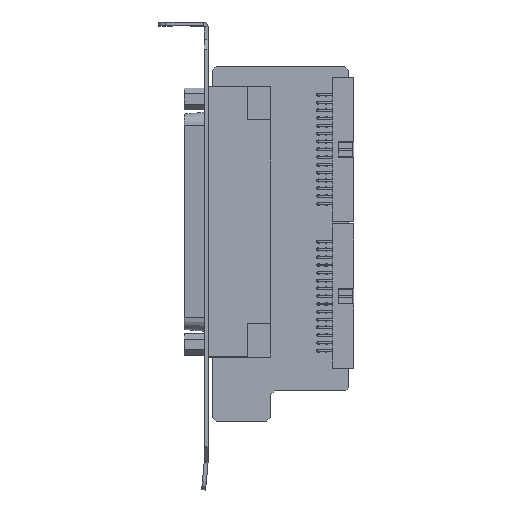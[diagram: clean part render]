
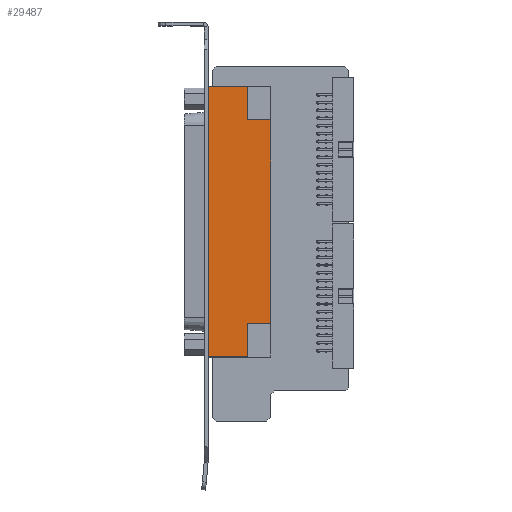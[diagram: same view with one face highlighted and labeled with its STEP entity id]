
A CAD part, top view. The second image highlights one B-rep face of the part: STEP entity #29487.
In plain terms, the highlighted planar face has unit normal (0, 0, 1).
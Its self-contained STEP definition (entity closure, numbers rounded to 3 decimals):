
#824 = VECTOR ( 'NONE', #35210, 1000. ) ;
#2798 = VERTEX_POINT ( 'NONE', #54327 ) ;
#3141 = CARTESIAN_POINT ( 'NONE',  ( 15.04, 24.978, 12.5 ) ) ;
#3507 = EDGE_CURVE ( 'NONE', #46669, #47585, #61006, .T. ) ;
#3897 = LINE ( 'NONE', #63995, #15058 ) ;
#4062 = VECTOR ( 'NONE', #22246, 1000. ) ;
#4441 = DIRECTION ( 'NONE',  ( -1., 0., 0. ) ) ;
#4611 = CARTESIAN_POINT ( 'NONE',  ( 9.04, 24.978, 12.5 ) ) ;
#6674 = VERTEX_POINT ( 'NONE', #40643 ) ;
#8287 = DIRECTION ( 'NONE',  ( -1., 0., 0. ) ) ;
#8369 = CARTESIAN_POINT ( 'NONE',  ( -1.06, 16.428, 12.5 ) ) ;
#9205 = ORIENTED_EDGE ( 'NONE', *, *, #47120, .F. ) ;
#10827 = CARTESIAN_POINT ( 'NONE',  ( -1.06, 85.828, 12.5 ) ) ;
#11321 = VECTOR ( 'NONE', #29222, 1000. ) ;
#12867 = LINE ( 'NONE', #55191, #11321 ) ;
#13517 = CARTESIAN_POINT ( 'NONE',  ( -1.06, 16.428, 12.5 ) ) ;
#15058 = VECTOR ( 'NONE', #8287, 1000. ) ;
#16308 = EDGE_CURVE ( 'NONE', #2798, #45015, #16566, .T. ) ;
#16566 = LINE ( 'NONE', #43228, #4062 ) ;
#17507 = VERTEX_POINT ( 'NONE', #66167 ) ;
#19678 = EDGE_CURVE ( 'NONE', #2798, #17507, #43198, .T. ) ;
#20601 = VECTOR ( 'NONE', #24032, 1000. ) ;
#22246 = DIRECTION ( 'NONE',  ( 0., -1., 0. ) ) ;
#24032 = DIRECTION ( 'NONE',  ( 0., 1., 0. ) ) ;
#24533 = CARTESIAN_POINT ( 'NONE',  ( -1.06, 16.428, 12.5 ) ) ;
#24729 = DIRECTION ( 'NONE',  ( 1., 0., 0. ) ) ;
#26895 = VERTEX_POINT ( 'NONE', #4611 ) ;
#29222 = DIRECTION ( 'NONE',  ( 0., -1., 0. ) ) ;
#29487 = ADVANCED_FACE ( 'NONE', ( #33835 ), #45520, .T. ) ;
#29512 = LINE ( 'NONE', #13517, #824 ) ;
#29722 = CARTESIAN_POINT ( 'NONE',  ( 15.04, 16.428, 12.5 ) ) ;
#30421 = VECTOR ( 'NONE', #4441, 1000. ) ;
#31245 = ORIENTED_EDGE ( 'NONE', *, *, #19678, .T. ) ;
#31763 = CARTESIAN_POINT ( 'NONE',  ( 9.04, 77.278, 12.5 ) ) ;
#33429 = ORIENTED_EDGE ( 'NONE', *, *, #68331, .T. ) ;
#33835 = FACE_OUTER_BOUND ( 'NONE', #61520, .T. ) ;
#35210 = DIRECTION ( 'NONE',  ( 0., -1., 0. ) ) ;
#36378 = ORIENTED_EDGE ( 'NONE', *, *, #69508, .T. ) ;
#39853 = CARTESIAN_POINT ( 'NONE',  ( -1.06, 16.428, 12.5 ) ) ;
#40643 = CARTESIAN_POINT ( 'NONE',  ( 9.04, 16.428, 12.5 ) ) ;
#40766 = DIRECTION ( 'NONE',  ( 1., 0., 0. ) ) ;
#42059 = ORIENTED_EDGE ( 'NONE', *, *, #50488, .F. ) ;
#43198 = LINE ( 'NONE', #10827, #30421 ) ;
#43228 = CARTESIAN_POINT ( 'NONE',  ( 9.04, 85.828, 12.5 ) ) ;
#45015 = VERTEX_POINT ( 'NONE', #31763 ) ;
#45520 = PLANE ( 'NONE',  #59072 ) ;
#46669 = VERTEX_POINT ( 'NONE', #3141 ) ;
#47120 = EDGE_CURVE ( 'NONE', #45015, #47585, #51764, .T. ) ;
#47585 = VERTEX_POINT ( 'NONE', #66906 ) ;
#47678 = EDGE_CURVE ( 'NONE', #26895, #6674, #12867, .T. ) ;
#50488 = EDGE_CURVE ( 'NONE', #46669, #26895, #3897, .T. ) ;
#51001 = VECTOR ( 'NONE', #40766, 1000. ) ;
#51764 = LINE ( 'NONE', #62094, #51001 ) ;
#54327 = CARTESIAN_POINT ( 'NONE',  ( 9.04, 85.828, 12.5 ) ) ;
#55004 = ORIENTED_EDGE ( 'NONE', *, *, #3507, .T. ) ;
#55191 = CARTESIAN_POINT ( 'NONE',  ( 9.04, 16.428, 12.5 ) ) ;
#55507 = DIRECTION ( 'NONE',  ( 0., 1., 0. ) ) ;
#57092 = LINE ( 'NONE', #8369, #66777 ) ;
#59070 = ORIENTED_EDGE ( 'NONE', *, *, #47678, .F. ) ;
#59072 = AXIS2_PLACEMENT_3D ( 'NONE', #39853, #65823, #55507 ) ;
#61006 = LINE ( 'NONE', #29722, #20601 ) ;
#61520 = EDGE_LOOP ( 'NONE', ( #9205, #69658, #31245, #33429, #36378, #59070, #42059, #55004 ) ) ;
#62094 = CARTESIAN_POINT ( 'NONE',  ( 15.04, 77.278, 12.5 ) ) ;
#63995 = CARTESIAN_POINT ( 'NONE',  ( 15.04, 24.978, 12.5 ) ) ;
#65823 = DIRECTION ( 'NONE',  ( 0., 0., 1. ) ) ;
#66167 = CARTESIAN_POINT ( 'NONE',  ( -1.06, 85.828, 12.5 ) ) ;
#66777 = VECTOR ( 'NONE', #24729, 1000. ) ;
#66906 = CARTESIAN_POINT ( 'NONE',  ( 15.04, 77.278, 12.5 ) ) ;
#67279 = VERTEX_POINT ( 'NONE', #24533 ) ;
#68331 = EDGE_CURVE ( 'NONE', #17507, #67279, #29512, .T. ) ;
#69508 = EDGE_CURVE ( 'NONE', #67279, #6674, #57092, .T. ) ;
#69658 = ORIENTED_EDGE ( 'NONE', *, *, #16308, .F. ) ;
